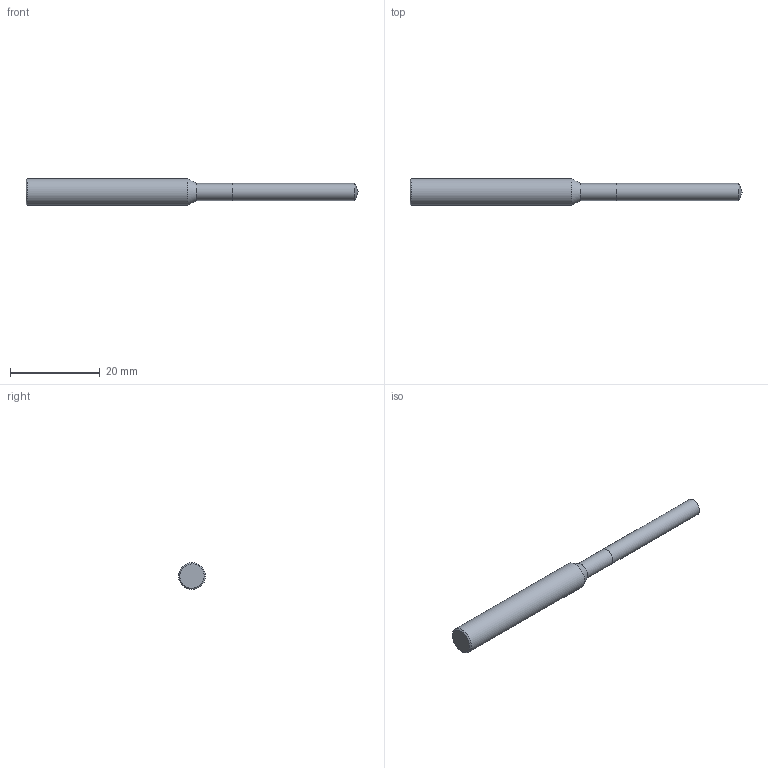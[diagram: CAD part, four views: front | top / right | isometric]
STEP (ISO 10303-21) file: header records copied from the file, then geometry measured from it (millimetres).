
FILE_DESCRIPTION(('STEP'), '1');
FILE_NAME('255570.0090.stp', '2019-03-13T18:06:16', ('TDM Systems GmbH'), ('TDM Systems GmbH'), 'HarmonyWare STEP v2.0.10 Express v3.0.0.0', 'TDM', 'Unknown');
FILE_SCHEMA(('AUTOMOTIVE_DESIGN'));
Length unit declared in the file: millimetre
Products named in the file (1): NONE
Bounding box: 74 x 6 x 5.99 mm (x, y, z)
Volume: 1463.1 mm3; surface area: 1196.8 mm2
Topology: 2 solids, 2 shells, 9 faces, 18 edges, 12 vertices
Faces by surface type: bspline 9
Entity records: 366 total; most frequent: CARTESIAN_POINT 211, ORIENTED_EDGE 26, EDGE_CURVE 13, B_SPLINE_CURVE_WITH_KNOTS 10, ADVANCED_FACE 9, FACE_OUTER_BOUND 9, EDGE_LOOP 9, VERTEX_POINT 8
